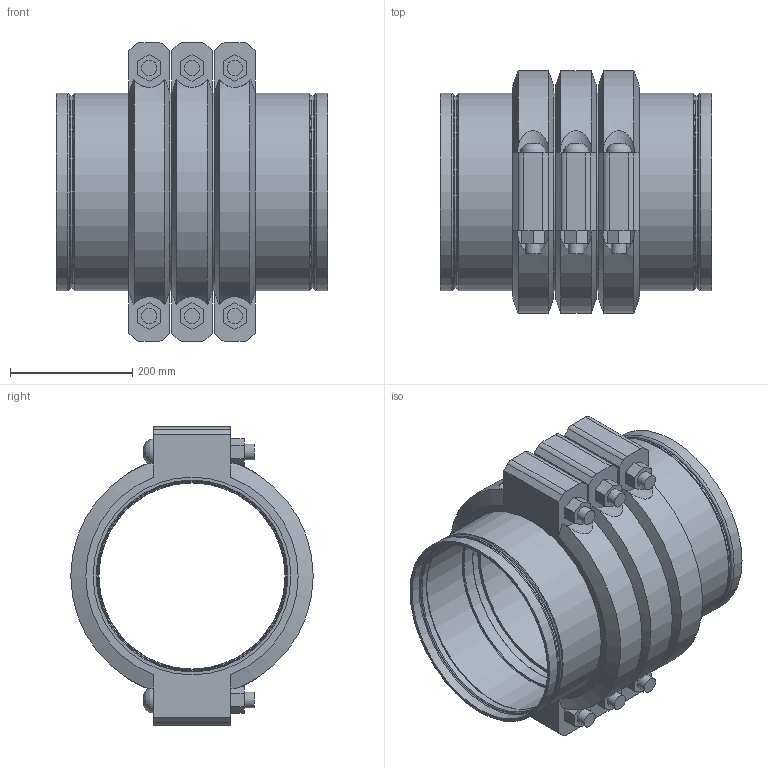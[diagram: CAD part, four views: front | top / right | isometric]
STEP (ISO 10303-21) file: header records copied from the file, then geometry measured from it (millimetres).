
FILE_DESCRIPTION(/* description */ ('VIC STRENGTHIN 100 EXPANSION JOINT 3 COUPLINGS COMPRESSED STYLE E155 (ST1)','CAx-IF Rec.Pracs.---Representation and Presentation of Product Manufacturing Information (PMI)---4.0---2014-10-13'),/* implementation_level */ '2;1');
FILE_NAME(/* name */ 'C:\Users\Vjadhav\AppData\Roaming\Autodesk\ApplicationPlugins\Victaulic.Temp\A21\Victaulic_SS-StrengThin 100_Expansion Joint_Compressed_3 Couplings_Style E155 (ST1)_12 (300).stp',/* time_stamp */ '2021-07-23T12:30:43+05:00',/* author */ ('kkamble'),/* organization */ ('Victaulic'),/* preprocessor_version */ 'ST-DEVELOPER v17.2',/* originating_system */ 'Autodesk Inventor 2019',/* authorisation */ '');
FILE_SCHEMA (('AP242_MANAGED_MODEL_BASED_3D_ENGINEERING_MIM_LF { 1 0 10303 442 1 1 4 }'));
Length unit declared in the file: inch
Products named in the file (4): E155-12.0; E494G-12.0; Nipple-12.0; 077-12.0
Assembly tree (7 placements, depth 2):
  E155-12.0
    E494G-12.0  x2
    Nipple-12.0  x2
    077-12.0  x3
Bounding box: 445.26 x 397 x 488.95 mm (x, y, z)
Volume: 12931041.8 mm3; surface area: 1929469.2 mm2
Topology: 7 solids, 13 shells, 265 faces, 707 edges, 504 vertices
Faces by surface type: plane 128, cylinder 83, torus 32, cone 16, bspline 6
Full cylindrical faces by diameter (mm): 25.4 x12, 27.432 x6, 304.8 x2, 306.426 x2, 308.737 x2, 314.3 x6, 315.976 x2, 318.287 x6, 323.85 x15
Entity records: 3922 total; most frequent: CARTESIAN_POINT 812, DIRECTION 661, ORIENTED_EDGE 568, EDGE_CURVE 284, AXIS2_PLACEMENT_3D 284, VERTEX_POINT 205, CIRCLE 171, EDGE_LOOP 129
